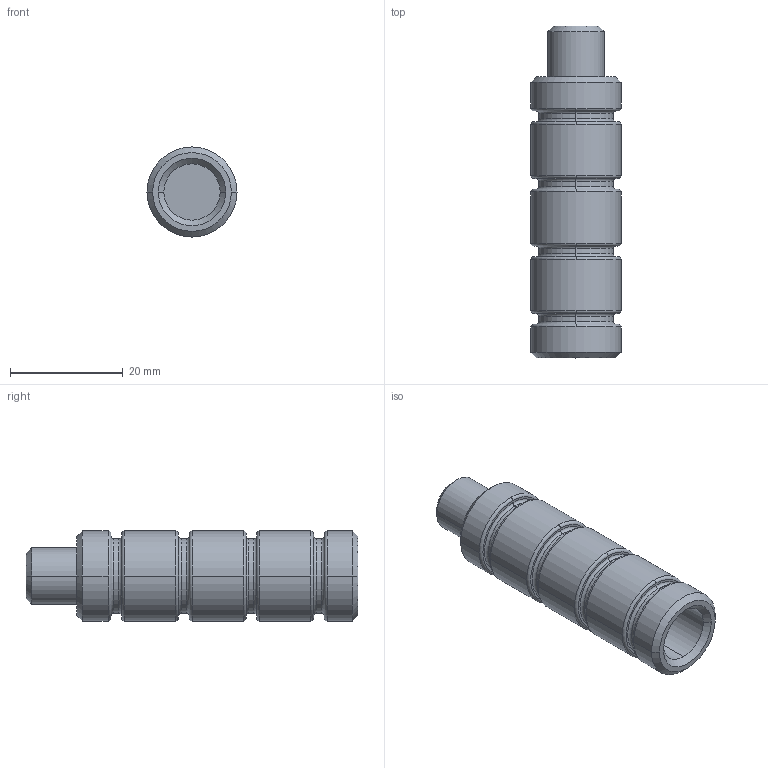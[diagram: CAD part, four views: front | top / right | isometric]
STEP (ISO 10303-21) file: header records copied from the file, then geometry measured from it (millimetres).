
FILE_DESCRIPTION (( 'STEP AP203' ), '1' );
FILE_NAME ('160649.1.step', '2014-08-11T16:18:34', ( 'User' ), ( '' ), 'SwSTEP 2.0', 'SolidWorks 2014', '' );
FILE_SCHEMA (( 'CONFIG_CONTROL_DESIGN' ));
Length unit declared in the file: millimetre
Products named in the file (2): 160649.1 Prismaverlängerung^160649.1_Detailliert; 160649.1
Assembly tree (1 placements, depth 2):
  160649.1
    160649.1 Prismaverlängerung^160649.1_Detailliert
Bounding box: 16 x 59 x 16 mm (x, y, z)
Volume: 9011.1 mm3; surface area: 3860.5 mm2
Topology: 1 solids, 1 shells, 74 faces, 164 edges, 102 vertices
Faces by surface type: torus 32, cylinder 22, plane 12, cone 8
Entity records: 2302 total; most frequent: DIRECTION 454, CARTESIAN_POINT 344, ORIENTED_EDGE 328, AXIS2_PLACEMENT_3D 212, EDGE_CURVE 164, CIRCLE 134, VERTEX_POINT 102, EDGE_LOOP 84
